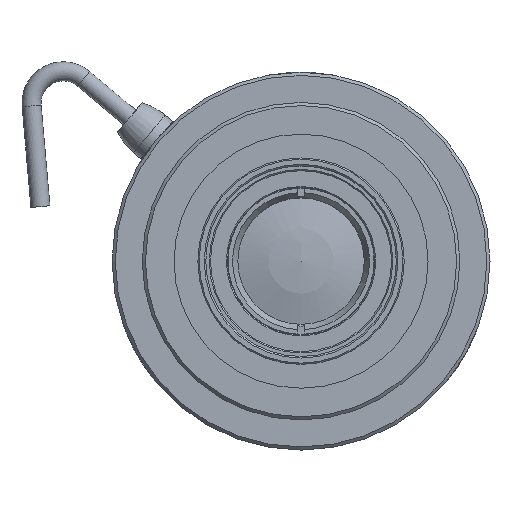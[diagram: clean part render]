
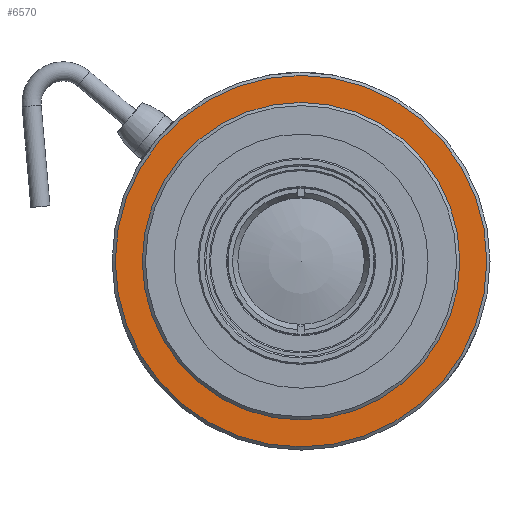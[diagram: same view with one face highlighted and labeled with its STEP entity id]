
A CAD part, front view. The second image highlights one B-rep face of the part: STEP entity #6570.
In plain terms, the highlighted planar face has unit normal (0, -1, 0).
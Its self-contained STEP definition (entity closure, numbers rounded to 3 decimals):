
#1142=PLANE('',#6978);
#2233=ORIENTED_EDGE('',*,*,#2871,.F.);
#2234=ORIENTED_EDGE('',*,*,#2870,.T.);
#2870=EDGE_CURVE('',#3303,#3303,#3443,.T.);
#2871=EDGE_CURVE('',#3304,#3304,#3444,.T.);
#3303=VERTEX_POINT('',#9549);
#3304=VERTEX_POINT('',#9552);
#3443=CIRCLE('',#6977,25.);
#3444=CIRCLE('',#6979,29.25);
#3812=EDGE_LOOP('',(#2233));
#3813=EDGE_LOOP('',(#2234));
#4218=FACE_BOUND('',#3812,.T.);
#4219=FACE_BOUND('',#3813,.T.);
#6570=ADVANCED_FACE('',(#4218,#4219),#1142,.F.);
#6977=AXIS2_PLACEMENT_3D('',#9548,#8188,#8189);
#6978=AXIS2_PLACEMENT_3D('',#9550,#8190,#8191);
#6979=AXIS2_PLACEMENT_3D('',#9551,#8192,#8193);
#8188=DIRECTION('',(0.,1.,0.));
#8189=DIRECTION('',(0.,0.,1.));
#8190=DIRECTION('',(0.,1.,0.));
#8191=DIRECTION('',(0.,0.,1.));
#8192=DIRECTION('',(0.,1.,0.));
#8193=DIRECTION('',(0.,0.,1.));
#9548=CARTESIAN_POINT('',(0.,-68.226,0.));
#9549=CARTESIAN_POINT('',(0.,-68.226,25.));
#9550=CARTESIAN_POINT('',(0.,-68.226,29.75));
#9551=CARTESIAN_POINT('',(0.,-68.226,0.));
#9552=CARTESIAN_POINT('',(0.,-68.226,29.25));
